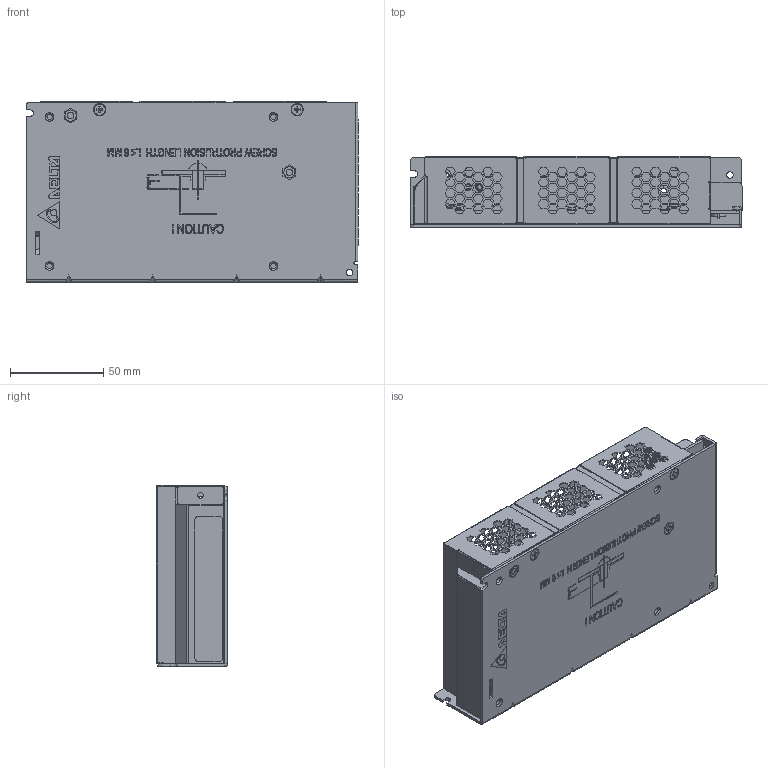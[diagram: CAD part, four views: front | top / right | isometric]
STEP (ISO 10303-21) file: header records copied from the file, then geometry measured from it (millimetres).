
FILE_DESCRIPTION((''),'2;1');
FILE_NAME('EOE12010188_ASM_ASM','2020-12-17T',('Kidsada.Kohk'),(''),'PRO/ENGINEER BY PARAMETRIC TECHNOLOGY CORPORATION, 2010180','PRO/ENGINEER BY PARAMETRIC TECHNOLOGY CORPORATION, 2010180','');
FILE_SCHEMA(('CONFIG_CONTROL_DESIGN','SHAPE_APPEARANCE_LAYERS_GROUPS'));
Products named in the file (20): 331606180304_1; 331606180304_A_STUD_1; 331606180304_ASM_1_ASM; 331606170101_1; 326203860203_1; 3268095800_5; 2958037704_PWB_1; 307049757W_A_BODY_1; 307049757W_A_SCREW_1; 307049757W_ASM_1_ASM; 3352010600_1; EE_LED_1; EE_VR_1; ASSY_PWB_EOE12010188_ASM_1_ASM; 3103301000_1; 3100001200_1; 3100000400_1; 3268798500_2; EOE12010188_ASM_8_ASM; EOE12010188_ASM_ASM
Assembly tree (31 placements, depth 5):
  EOE12010188_ASM_ASM
    EOE12010188_ASM_8_ASM
      331606180304_ASM_1_ASM
        331606180304_1
        331606180304_A_STUD_1  x2
      331606170101_1
      326203860203_1
      3268095800_5
      ASSY_PWB_EOE12010188_ASM_1_ASM
        2958037704_PWB_1
        307049757W_ASM_1_ASM
          307049757W_A_BODY_1
          307049757W_A_SCREW_1  x7
        3352010600_1
        EE_LED_1
        EE_VR_1
      3103301000_1  x2
      3100001200_1  x2
      3100000400_1  x4
      3268798500_2
Bounding box: 178 x 38.08 x 97.05 mm (x, y, z)
Volume: 84860.9 mm3; surface area: 147162.5 mm2
Topology: 27 solids, 27 shells, 6473 faces, 17866 edges, 11229 vertices
Faces by surface type: plane 4855, cylinder 608, bspline 420, extrusion 404, cone 148, torus 36, sphere 2
Entity records: 191404 total; most frequent: CARTESIAN_POINT 40488, ORIENTED_EDGE 31190, DIRECTION 26061, EDGE_CURVE 15595, VECTOR 13837, LINE 13433, VERTEX_POINT 9922, EDGE_LOOP 6168
